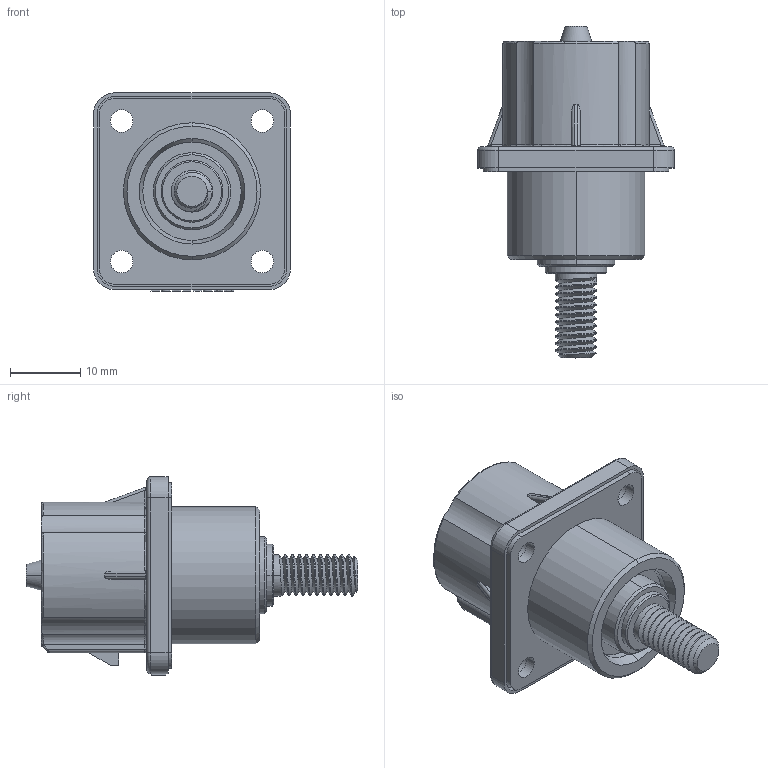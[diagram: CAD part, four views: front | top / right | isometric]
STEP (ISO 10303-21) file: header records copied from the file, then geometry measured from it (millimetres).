
FILE_DESCRIPTION (( 'STEP AP214' ), '1' );
FILE_NAME ('PL00X-120-20-XXXXX.STEP', '2014-05-07T06:18:08', ( '' ), ( '' ), 'SwSTEP 2.0', 'SolidWorks 2012', '' );
FILE_SCHEMA (( 'AUTOMOTIVE_DESIGN' ));
Length unit declared in the file: millimetre
Products named in the file (1): PL00X-120-20-XXXXX
Bounding box: 28 x 47.2 x 28.2 mm (x, y, z)
Volume: 10037.3 mm3; surface area: 5247 mm2
Topology: 1 solids, 2 shells, 369 faces, 945 edges, 604 vertices
Faces by surface type: plane 183, cylinder 112, torus 29, bspline 22, cone 21, sphere 2
Entity records: 17398 total; most frequent: CARTESIAN_POINT 4588, ORIENTED_EDGE 1886, DIRECTION 1738, EDGE_CURVE 943, VERTEX_POINT 604, AXIS2_PLACEMENT_3D 583, VECTOR 572, LINE 572
